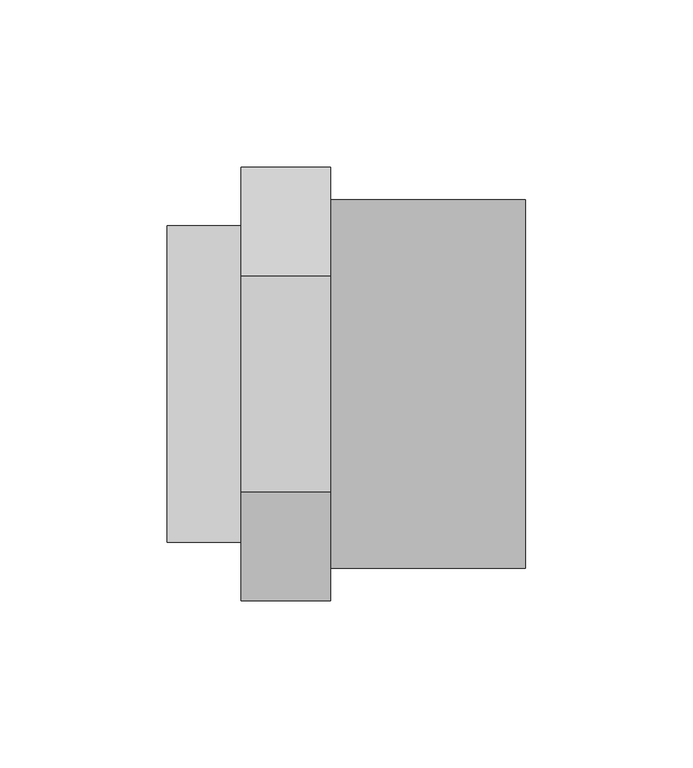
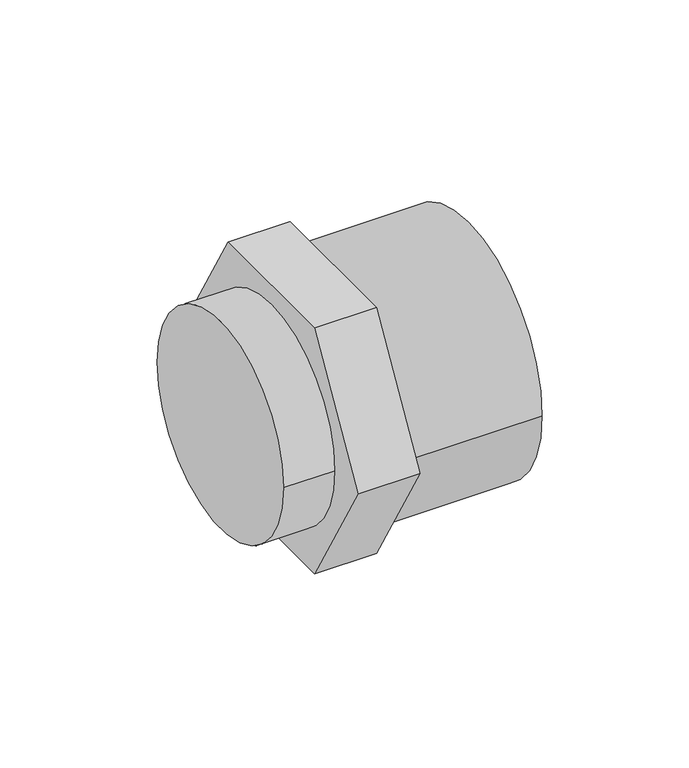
"""IFC4 building model written with IfcOpenShell, lengths in millimetres: pipe fitting geometry, 01101008_ : Uniões múltiplas F/M/F."""

from ifc_helpers import new_model, si_unit, point, frame, origin, origin_2d, place, context, project, spatial, polyline, circle_curve, trimmed, segment, composite_curve, outline, extrude, source, transform, mapped, element, save


def pipe_fitting_27b634f3(model_context):
    return source(origin(), model_context, "Body", "SweptSolid", [
        extrude(outline(composite_curve([segment(trimmed(circle_curve(origin_2d(), 47.25), [point((47.25, 0.0))], [point((-47.25, 0.0))], False, "CARTESIAN"), True, "CONTINUOUS"), segment(trimmed(circle_curve(origin_2d(), 47.25), [point((-47.25, 0.0))], [point((47.25, 0.0))], False, "CARTESIAN"), True, "CONTINUOUS")], self_intersect=False)), frame((0.0, 0.0, 0.0), z_axis=(1.0, 0.0, 0.0), x_axis=(0.0, 1.0, 0.0)), (0.0, 0.0, 1.0), 22.0),
        extrude(outline(polyline([(-32.3316151, 56.0), (32.3316151, 56.0), (64.6632301, 0.0), (32.3316151, -56.0), (-32.3316151, -56.0), (-64.6632301, 0.0), (-32.3316151, 56.0)])), frame((22.0, 0.0, 0.0), z_axis=(1.0, 0.0, 0.0), x_axis=(0.0, 1.0, 0.0)), (0.0, 0.0, 1.0), 26.75),
        extrude(outline(composite_curve([segment(trimmed(circle_curve(origin_2d(), 55.0), [point((-55.0, 0.0))], [point((55.0, 0.0))], False, "CARTESIAN"), True, "CONTINUOUS"), segment(trimmed(circle_curve(origin_2d(), 55.0), [point((55.0, 0.0))], [point((-55.0, 0.0))], False, "CARTESIAN"), True, "CONTINUOUS")], self_intersect=False)), frame((48.75, 0.0, 0.0), z_axis=(1.0, 0.0, 0.0), x_axis=(0.0, 1.0, 0.0)), (0.0, 0.0, 1.0), 58.25),
    ])


if __name__ == "__main__":
    model = new_model("IFC4")
    model_context = context("Model", 3, world=origin())
    ifc_project = project(units=[si_unit("LENGTHUNIT", "METRE", prefix="MILLI")], contexts=[model_context])
    site = spatial("IfcSite", under=ifc_project)
    building = spatial("IfcBuilding", under=site)
    placement = place(None, origin())
    pipe_fitting_shape = pipe_fitting_27b634f3(model_context)
    element("IfcPipeFitting", 1, ObjectType="01101008_ : Uniões múltiplas F/M/F", at=placement, inside=building, context=model_context, shape_type="MappedRepresentation", body=[
        mapped(pipe_fitting_shape, transform((0.0, 0.0, 0.0), x_axis=(1.0, 0.0, 0.0), y_axis=(0.0, 1.0, 0.0), z_axis=(0.0, 0.0, 1.0))),
    ])
    save(model, "model.ifc")
